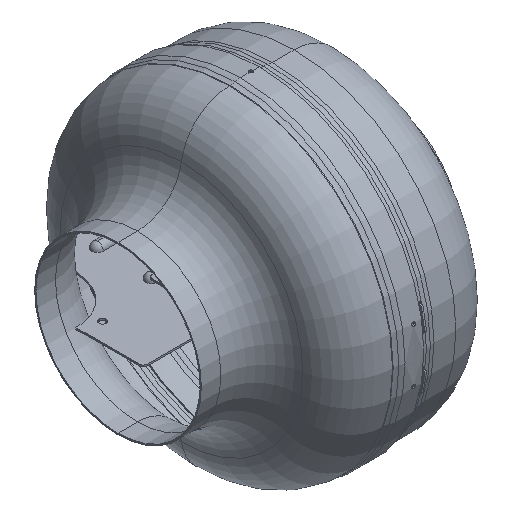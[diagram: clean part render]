
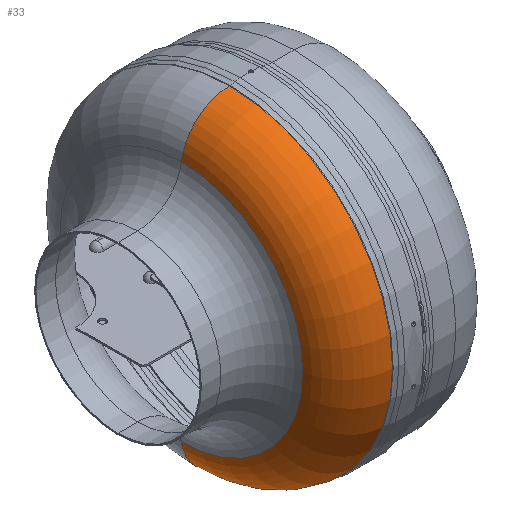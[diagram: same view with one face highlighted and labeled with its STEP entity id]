
A CAD part, isometric view. The second image highlights one B-rep face of the part: STEP entity #33.
In plain terms, the highlighted toroidal (fillet/blend) face has major radius 85 mm and minor radius 36.226 mm.
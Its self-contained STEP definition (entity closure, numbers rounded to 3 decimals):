
#33 = ADVANCED_FACE ( 'NONE', ( #6001 ), #6008, .T. ) ;
#645 = EDGE_CURVE ( 'NONE', #6230, #5858, #1439, .T. ) ;
#646 = EDGE_CURVE ( 'NONE', #5858, #5924, #1464, .T. ) ;
#665 = EDGE_CURVE ( 'NONE', #6230, #7682, #1346, .T. ) ;
#670 = EDGE_CURVE ( 'NONE', #7682, #5924, #1348, .T. ) ;
#993 = AXIS2_PLACEMENT_3D ( 'NONE', #3243, #3231, #3443 ) ;
#1346 = CIRCLE ( 'NONE', #1546, 90.233 ) ;
#1348 = CIRCLE ( 'NONE', #1550, 36.226 ) ;
#1439 = CIRCLE ( 'NONE', #1543, 36.226 ) ;
#1464 = CIRCLE ( 'NONE', #1544, 121.226 ) ;
#1543 = AXIS2_PLACEMENT_3D ( 'NONE', #4256, #3886, #3980 ) ;
#1544 = AXIS2_PLACEMENT_3D ( 'NONE', #3852, #3880, #3876 ) ;
#1546 = AXIS2_PLACEMENT_3D ( 'NONE', #4509, #4511, #4702 ) ;
#1550 = AXIS2_PLACEMENT_3D ( 'NONE', #4947, #4945, #4946 ) ;
#2080 = CARTESIAN_POINT ( 'NONE',  ( -45.846, 0., 90.233 ) ) ;
#2311 = CARTESIAN_POINT ( 'NONE',  ( -10.036, 0., -121.226 ) ) ;
#2343 = CARTESIAN_POINT ( 'NONE',  ( -10.036, 0., 121.226 ) ) ;
#3231 = DIRECTION ( 'NONE',  ( 1., 0., 0. ) ) ;
#3243 = CARTESIAN_POINT ( 'NONE',  ( -10., 0., 0. ) ) ;
#3443 = DIRECTION ( 'NONE',  ( 0., 0., 1. ) ) ;
#3852 = CARTESIAN_POINT ( 'NONE',  ( -10.036, 0., 0. ) ) ;
#3876 = DIRECTION ( 'NONE',  ( 0., 0., 1. ) ) ;
#3880 = DIRECTION ( 'NONE',  ( 1., 0., 0. ) ) ;
#3886 = DIRECTION ( 'NONE',  ( 0., 1., 0. ) ) ;
#3980 = DIRECTION ( 'NONE',  ( -1., 0., 0. ) ) ;
#4256 = CARTESIAN_POINT ( 'NONE',  ( -10., 0., 85. ) ) ;
#4509 = CARTESIAN_POINT ( 'NONE',  ( -45.846, 0., 0. ) ) ;
#4511 = DIRECTION ( 'NONE',  ( 1., 0., 0. ) ) ;
#4702 = DIRECTION ( 'NONE',  ( 0., 0., 1. ) ) ;
#4945 = DIRECTION ( 'NONE',  ( 0., -1., 0. ) ) ;
#4946 = DIRECTION ( 'NONE',  ( 0., 0., -1. ) ) ;
#4947 = CARTESIAN_POINT ( 'NONE',  ( -10., 0., -85. ) ) ;
#5816 = ORIENTED_EDGE ( 'NONE', *, *, #645, .F. ) ;
#5819 = ORIENTED_EDGE ( 'NONE', *, *, #670, .T. ) ;
#5820 = ORIENTED_EDGE ( 'NONE', *, *, #665, .T. ) ;
#5858 = VERTEX_POINT ( 'NONE', #2343 ) ;
#5924 = VERTEX_POINT ( 'NONE', #2311 ) ;
#6001 = FACE_OUTER_BOUND ( 'NONE', #7616, .T. ) ;
#6008 = TOROIDAL_SURFACE ( 'NONE', #993, 85., 36.226 ) ;
#6230 = VERTEX_POINT ( 'NONE', #2080 ) ;
#7565 = ORIENTED_EDGE ( 'NONE', *, *, #646, .F. ) ;
#7616 = EDGE_LOOP ( 'NONE', ( #5820, #5819, #7565, #5816 ) ) ;
#7682 = VERTEX_POINT ( 'NONE', #7738 ) ;
#7738 = CARTESIAN_POINT ( 'NONE',  ( -45.846, 0., -90.233 ) ) ;
